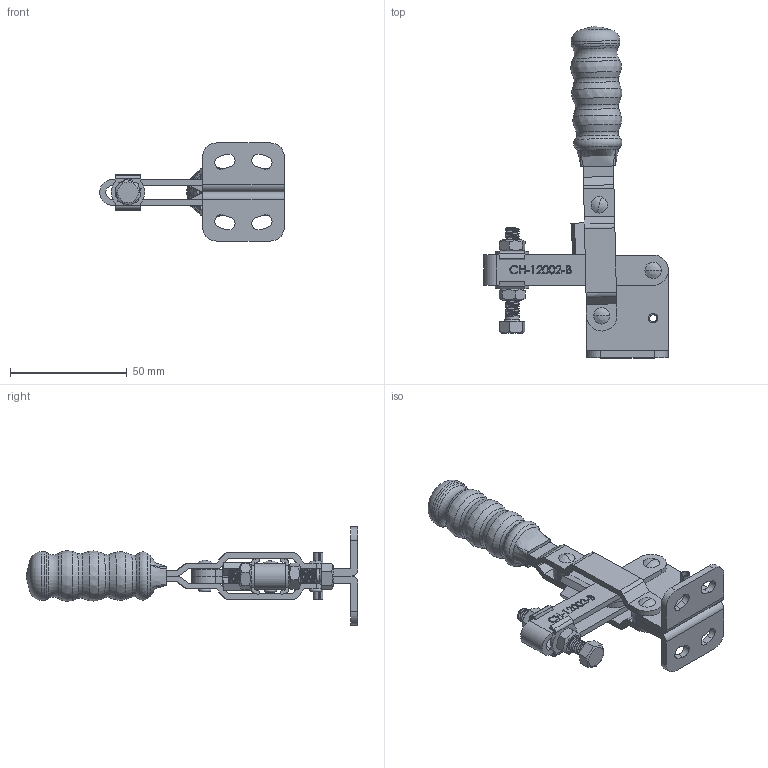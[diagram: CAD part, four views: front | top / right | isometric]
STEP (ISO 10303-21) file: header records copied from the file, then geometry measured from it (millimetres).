
FILE_DESCRIPTION(/* description */ ('STEP AP203'),/* implementation_level */ '2;1');
FILE_NAME(/* name */ 'D:\Vault_2016\Projekty\NASZ KATALOG\CLAMPTEK\STRONA\Vertical toggle clamp\CH-12002-B\CH-12002-B_ZAMKNIETY.stp',/* time_stamp */ '2019-01-18T14:33:05+01:00',/* author */ ('CADENGINEERING4'),/* organization */ ('Î¢ÈíÖÐ¹ú'),/* preprocessor_version */ 'ST-DEVELOPER v17.2',/* originating_system */ 'Autodesk Inventor 2019',/* authorisation */ '');
FILE_SCHEMA (('AUTOMOTIVE_DESIGN { 1 0 10303 214 3 1 1 }'));
Products named in the file (11): CH-12002-B_ZAMKNIETY; CH-12002-B-02 U-BAR; CH-12002-B-01 FLANGED BASE; M6 Nut; CH-SA-064010 SPINDLE SUPPLIED; CH-12002-B-07; CH-12002-B-04 CONNECTING-PLATE; CH-FW-140; CH-12002-B-06; CH-12002-B-05; CH-12002-B-03 HANDLE
Assembly tree (15 placements, depth 2):
  CH-12002-B_ZAMKNIETY
    M6 Nut  x2
    CH-12002-B-02 U-BAR
    CH-12002-B-06  x4
    CH-12002-B-01 FLANGED BASE
    CH-FW-140  x2
    CH-SA-064010 SPINDLE SUPPLIED
    CH-12002-B-07
    CH-12002-B-04 CONNECTING-PLATE
    CH-12002-B-05
    CH-12002-B-03 HANDLE
Bounding box: 79.01 x 142.03 x 42 mm (x, y, z)
Volume: 43282.8 mm3; surface area: 35001.7 mm2
Topology: 18 solids, 18 shells, 693 faces, 1939 edges, 1301 vertices
Faces by surface type: plane 300, bspline 203, cylinder 134, cone 44, torus 12
Full cylindrical faces by diameter (mm): 1.997 x1, 2.214 x1, 3.987 x4, 4 x18, 4.8 x10, 6 x37, 6.3 x2, 20.847 x1
Entity records: 38967 total; most frequent: CARTESIAN_POINT 23676, ORIENTED_EDGE 3490, DIRECTION 2413, EDGE_CURVE 1745, VERTEX_POINT 1177, LINE 951, VECTOR 951, AXIS2_PLACEMENT_3D 731
